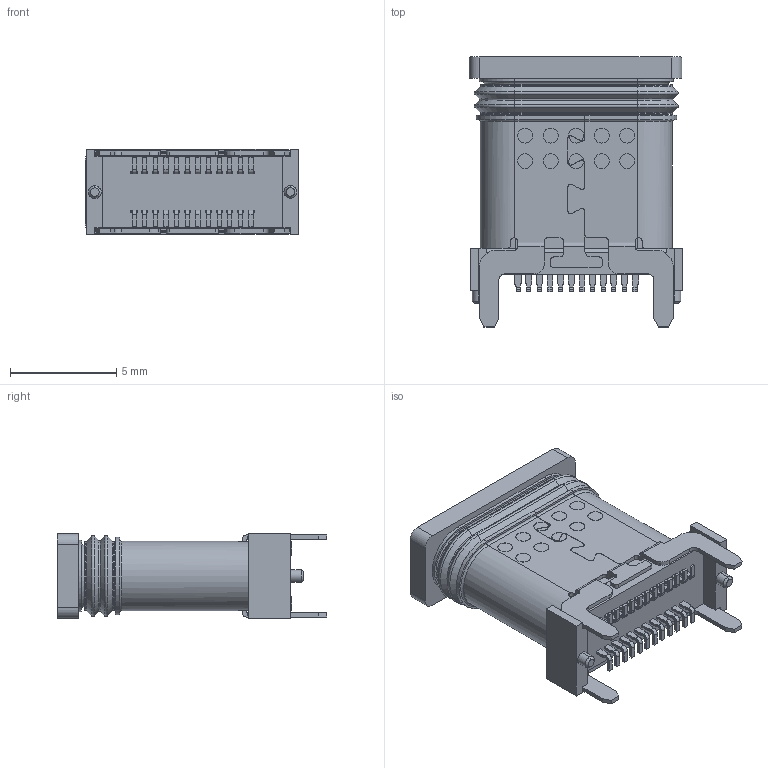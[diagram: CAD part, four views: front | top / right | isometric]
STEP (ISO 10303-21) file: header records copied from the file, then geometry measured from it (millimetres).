
FILE_DESCRIPTION((''),'2;1');
FILE_NAME('ASM0001_ASM','2026-03-05T11:13:40',('allen'),(''),'CREO PARAMETRIC BY PTC INC, 2024063','CREO PARAMETRIC BY PTC INC, 2024063','');
FILE_SCHEMA(('CONFIG_CONTROL_DESIGN'));
Length unit declared in the file: millimetre
Products named in the file (3): 3D; COVER; ASM0001_ASM
Assembly tree (2 placements, depth 2):
  ASM0001_ASM
    3D
    COVER
Bounding box: 10.05 x 12.7 x 4.03 mm (x, y, z)
Volume: 261.3 mm3; surface area: 935.3 mm2
Topology: 2 solids, 14 shells, 1327 faces, 3685 edges, 2425 vertices
Faces by surface type: plane 849, cylinder 406, cone 36, torus 36
Entity records: 42724 total; most frequent: CARTESIAN_POINT 7870, ORIENTED_EDGE 7370, DIRECTION 7258, EDGE_CURVE 3685, VECTOR 2608, LINE 2608, VERTEX_POINT 2425, AXIS2_PLACEMENT_3D 2325
